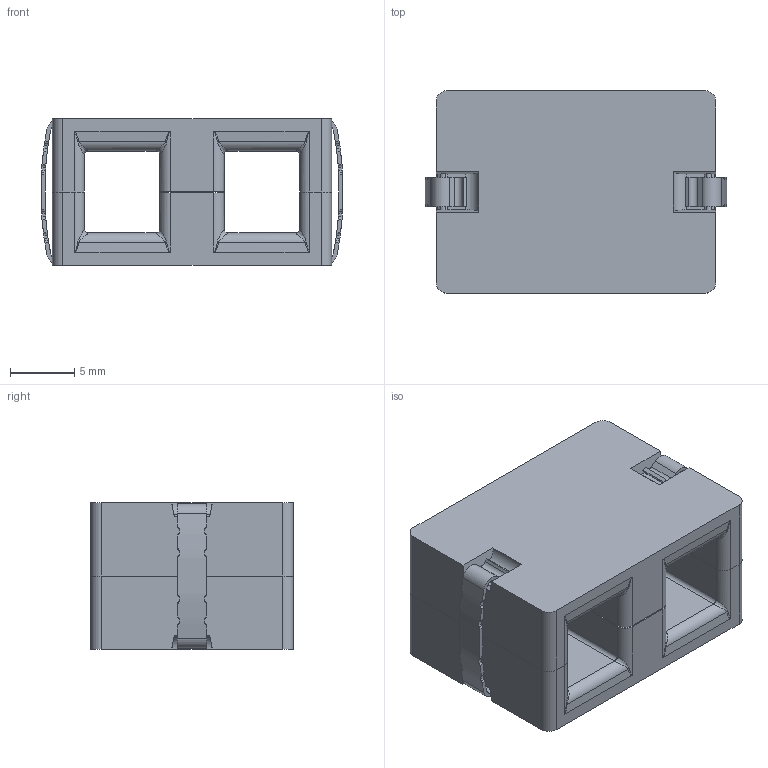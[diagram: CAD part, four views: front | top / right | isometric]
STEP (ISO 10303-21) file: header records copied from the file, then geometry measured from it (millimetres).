
FILE_DESCRIPTION(('Open CASCADE Model'),'2;1');
FILE_NAME('Open CASCADE Shape Model','2026-10-08T14:06:21',('Author'),( 'Open CASCADE'),'Open CASCADE STEP processor 7.8','Open CASCADE 7.8' ,'Unknown');
FILE_SCHEMA(('AUTOMOTIVE_DESIGN { 1 0 10303 214 1 1 1 1 }'));
Length unit declared in the file: millimetre
Products named in the file (5): PS_MAG_002_A4_TDK_derived; core_upper_factory_0p05_gap; core_lower_factory_0p05_gap; clip_right_estimated_opened_pose; clip_left_estimated_opened_pose
Assembly tree (4 placements, depth 2):
  PS_MAG_002_A4_TDK_derived
    core_upper_factory_0p05_gap
    core_lower_factory_0p05_gap
    clip_right_estimated_opened_pose
    clip_left_estimated_opened_pose
Bounding box: 23.53 x 15.8 x 11.4 mm (x, y, z)
Volume: 2690 mm3; surface area: 2601.1 mm2
Topology: 4 solids, 4 shells, 280 faces, 768 edges, 496 vertices
Faces by surface type: bspline 156, plane 60, cylinder 48, torus 16
Entity records: 50031 total; most frequent: CARTESIAN_POINT 37929, ORIENTED_EDGE 1536, PCURVE 1536, DEFINITIONAL_REPRESENTATION 1536, DIRECTION 1242, B_SPLINE_CURVE_WITH_KNOTS 1216, EDGE_CURVE 768, SURFACE_CURVE 768
